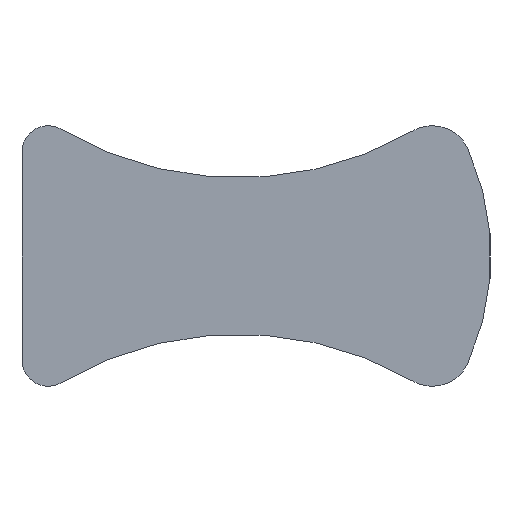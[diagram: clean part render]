
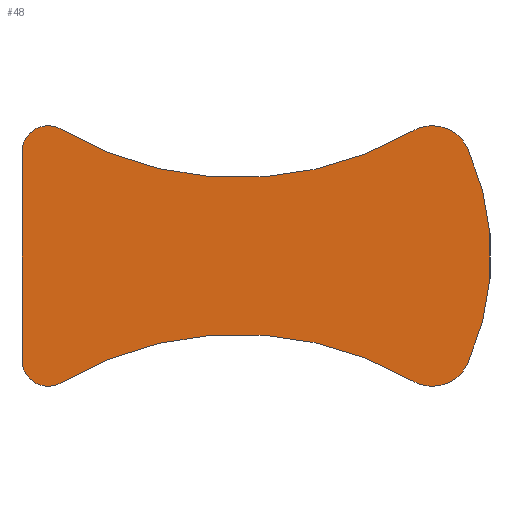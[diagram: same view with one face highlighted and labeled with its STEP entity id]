
A CAD part, left-side view. The second image highlights one B-rep face of the part: STEP entity #48.
In plain terms, the highlighted planar face has unit normal (-1, 0, 0).
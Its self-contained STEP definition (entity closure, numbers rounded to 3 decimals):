
#48 = ADVANCED_FACE( '', ( #105 ), #106, .F. );
#105 = FACE_OUTER_BOUND( '', #174, .T. );
#106 = PLANE( '', #175 );
#174 = EDGE_LOOP( '', ( #246, #247, #248, #249, #250, #251, #252, #253 ) );
#175 = AXIS2_PLACEMENT_3D( '', #254, #255, #256 );
#246 = ORIENTED_EDGE( '', *, *, #372, .F. );
#247 = ORIENTED_EDGE( '', *, *, #363, .F. );
#248 = ORIENTED_EDGE( '', *, *, #373, .T. );
#249 = ORIENTED_EDGE( '', *, *, #374, .F. );
#250 = ORIENTED_EDGE( '', *, *, #375, .F. );
#251 = ORIENTED_EDGE( '', *, *, #376, .F. );
#252 = ORIENTED_EDGE( '', *, *, #377, .T. );
#253 = ORIENTED_EDGE( '', *, *, #378, .F. );
#254 = CARTESIAN_POINT( '', ( -12., -1., 4. ) );
#255 = DIRECTION( '', ( 1., 0., 0. ) );
#256 = DIRECTION( '', ( 0., 0., -1. ) );
#363 = EDGE_CURVE( '', #413, #414, #415, .T. );
#372 = EDGE_CURVE( '', #414, #428, #429, .T. );
#373 = EDGE_CURVE( '', #413, #430, #431, .T. );
#374 = EDGE_CURVE( '', #432, #430, #433, .T. );
#375 = EDGE_CURVE( '', #434, #432, #435, .T. );
#376 = EDGE_CURVE( '', #436, #434, #437, .T. );
#377 = EDGE_CURVE( '', #436, #438, #439, .T. );
#378 = EDGE_CURVE( '', #428, #438, #440, .T. );
#413 = VERTEX_POINT( '', #487 );
#414 = VERTEX_POINT( '', #488 );
#415 = CIRCLE( '', #489, 1. );
#428 = VERTEX_POINT( '', #504 );
#429 = LINE( '', #505, #506 );
#430 = VERTEX_POINT( '', #507 );
#431 = CIRCLE( '', #508, 13.34 );
#432 = VERTEX_POINT( '', #509 );
#433 = CIRCLE( '', #510, 1.5 );
#434 = VERTEX_POINT( '', #511 );
#435 = CIRCLE( '', #512, 10. );
#436 = VERTEX_POINT( '', #513 );
#437 = CIRCLE( '', #514, 1.5 );
#438 = VERTEX_POINT( '', #515 );
#439 = CIRCLE( '', #516, 13.34 );
#440 = CIRCLE( '', #517, 1. );
#487 = CARTESIAN_POINT( '', ( -12., -1.509, -4.861 ) );
#488 = CARTESIAN_POINT( '', ( -12., 0., -4. ) );
#489 = AXIS2_PLACEMENT_3D( '', #570, #571, #572 );
#504 = CARTESIAN_POINT( '', ( -12., 0., 4. ) );
#505 = CARTESIAN_POINT( '', ( -12., 0., -4. ) );
#506 = VECTOR( '', #584, 1000. );
#507 = CARTESIAN_POINT( '', ( -12., -14.994, -4.798 ) );
#508 = AXIS2_PLACEMENT_3D( '', #585, #586, #587 );
#509 = CARTESIAN_POINT( '', ( -12., -17.113, -4.118 ) );
#510 = AXIS2_PLACEMENT_3D( '', #588, #589, #590 );
#511 = CARTESIAN_POINT( '', ( -12., -17.113, 4.118 ) );
#512 = AXIS2_PLACEMENT_3D( '', #591, #592, #593 );
#513 = CARTESIAN_POINT( '', ( -12., -14.994, 4.798 ) );
#514 = AXIS2_PLACEMENT_3D( '', #594, #595, #596 );
#515 = CARTESIAN_POINT( '', ( -12., -1.509, 4.861 ) );
#516 = AXIS2_PLACEMENT_3D( '', #597, #598, #599 );
#517 = AXIS2_PLACEMENT_3D( '', #600, #601, #602 );
#570 = CARTESIAN_POINT( '', ( -12., -1., -4. ) );
#571 = DIRECTION( '', ( 1., 0., 0. ) );
#572 = DIRECTION( '', ( 0., 0., -1. ) );
#584 = DIRECTION( '', ( 0., 0., 1. ) );
#585 = CARTESIAN_POINT( '', ( -12., -8.305, -16.34 ) );
#586 = DIRECTION( '', ( 1., 0., 0. ) );
#587 = DIRECTION( '', ( 0., 0., -1. ) );
#588 = CARTESIAN_POINT( '', ( -12., -15.746, -3.5 ) );
#589 = DIRECTION( '', ( 1., 0., 0. ) );
#590 = DIRECTION( '', ( 0., 0., -1. ) );
#591 = CARTESIAN_POINT( '', ( -12., -8., 0. ) );
#592 = DIRECTION( '', ( 1., 0., 0. ) );
#593 = DIRECTION( '', ( 0., 0., -1. ) );
#594 = CARTESIAN_POINT( '', ( -12., -15.746, 3.5 ) );
#595 = DIRECTION( '', ( 1., 0., 0. ) );
#596 = DIRECTION( '', ( 0., 0., -1. ) );
#597 = CARTESIAN_POINT( '', ( -12., -8.305, 16.34 ) );
#598 = DIRECTION( '', ( 1., 0., 0. ) );
#599 = DIRECTION( '', ( 0., 0., -1. ) );
#600 = CARTESIAN_POINT( '', ( -12., -1., 4. ) );
#601 = DIRECTION( '', ( 1., 0., 0. ) );
#602 = DIRECTION( '', ( 0., 0., -1. ) );
